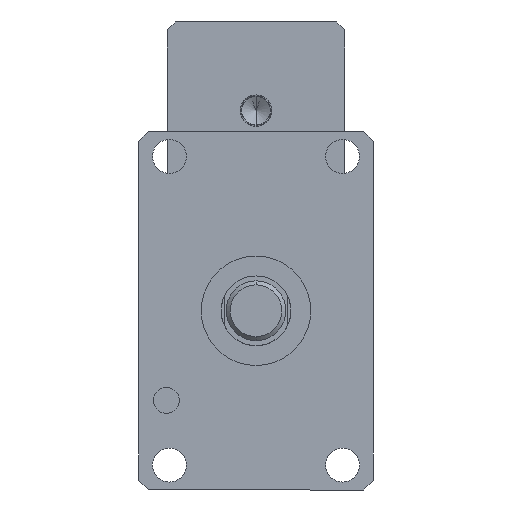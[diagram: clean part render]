
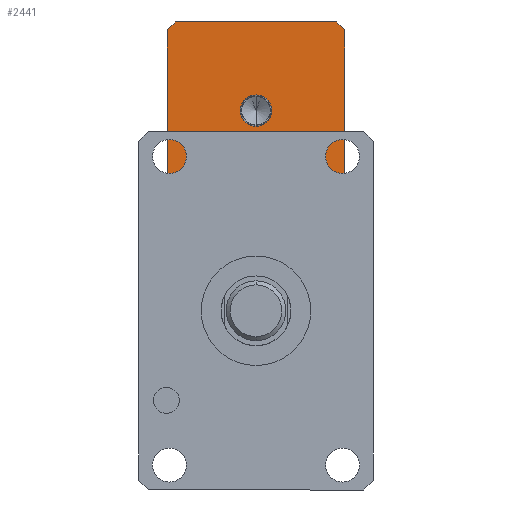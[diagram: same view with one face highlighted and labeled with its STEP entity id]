
A CAD part, front view. The second image highlights one B-rep face of the part: STEP entity #2441.
In plain terms, the highlighted planar face has unit normal (0, -1, 0).
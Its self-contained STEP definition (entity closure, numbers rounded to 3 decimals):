
#132 = LINE ( 'NONE', #4605, #12438 ) ;
#215 = ORIENTED_EDGE ( 'NONE', *, *, #6547, .T. ) ;
#456 = ORIENTED_EDGE ( 'NONE', *, *, #10789, .T. ) ;
#558 = VECTOR ( 'NONE', #3946, 1000. ) ;
#641 = CARTESIAN_POINT ( 'NONE',  ( 40.5, 160., 56. ) ) ;
#800 = CARTESIAN_POINT ( 'NONE',  ( 40.5, 160., 145. ) ) ;
#1570 = ORIENTED_EDGE ( 'NONE', *, *, #8522, .T. ) ;
#1624 = VERTEX_POINT ( 'NONE', #5617 ) ;
#1646 = VECTOR ( 'NONE', #9581, 1000. ) ;
#1689 = CARTESIAN_POINT ( 'NONE',  ( 0., 160., 92.597 ) ) ;
#1920 = CARTESIAN_POINT ( 'NONE',  ( -40.5, 160., 145. ) ) ;
#1950 = LINE ( 'NONE', #800, #12015 ) ;
#2265 = AXIS2_PLACEMENT_3D ( 'NONE', #4031, #10822, #5037 ) ;
#2441 = ADVANCED_FACE ( 'NONE', ( #10503, #5381 ), #10321, .F. ) ;
#2666 = ORIENTED_EDGE ( 'NONE', *, *, #7547, .T. ) ;
#2880 = DIRECTION ( 'NONE',  ( -0.707, 0., -0.707 ) ) ;
#2950 = LINE ( 'NONE', #5451, #10083 ) ;
#3270 = VECTOR ( 'NONE', #7464, 1000. ) ;
#3484 = DIRECTION ( 'NONE',  ( 0., 0., -1. ) ) ;
#3535 = CARTESIAN_POINT ( 'NONE',  ( -44.5, 160., 141. ) ) ;
#3573 = VERTEX_POINT ( 'NONE', #11624 ) ;
#3831 = ORIENTED_EDGE ( 'NONE', *, *, #8307, .F. ) ;
#3946 = DIRECTION ( 'NONE',  ( 0.707, 0., -0.707 ) ) ;
#4011 = VERTEX_POINT ( 'NONE', #7503 ) ;
#4031 = CARTESIAN_POINT ( 'NONE',  ( 0., 160., 100.5 ) ) ;
#4275 = CARTESIAN_POINT ( 'NONE',  ( 0., 160., 108.403 ) ) ;
#4605 = CARTESIAN_POINT ( 'NONE',  ( 44.5, 160., 145. ) ) ;
#4853 = CARTESIAN_POINT ( 'NONE',  ( 0., 160., 100.5 ) ) ;
#4980 = VERTEX_POINT ( 'NONE', #3535 ) ;
#5037 = DIRECTION ( 'NONE',  ( 0., 0., -1. ) ) ;
#5169 = ORIENTED_EDGE ( 'NONE', *, *, #5798, .T. ) ;
#5222 = VECTOR ( 'NONE', #2880, 1000. ) ;
#5381 = FACE_OUTER_BOUND ( 'NONE', #6439, .T. ) ;
#5451 = CARTESIAN_POINT ( 'NONE',  ( -44.5, 160., 145. ) ) ;
#5514 = DIRECTION ( 'NONE',  ( 0., 0., 1. ) ) ;
#5617 = CARTESIAN_POINT ( 'NONE',  ( 40.5, 160., 145. ) ) ;
#5744 = LINE ( 'NONE', #6842, #558 ) ;
#5798 = EDGE_CURVE ( 'NONE', #7649, #4980, #10350, .T. ) ;
#5836 = DIRECTION ( 'NONE',  ( 0., 0., -1. ) ) ;
#5868 = LINE ( 'NONE', #11321, #3270 ) ;
#5887 = VERTEX_POINT ( 'NONE', #8814 ) ;
#5963 = DIRECTION ( 'NONE',  ( 1., 0., 0. ) ) ;
#6200 = AXIS2_PLACEMENT_3D ( 'NONE', #8371, #11303, #5514 ) ;
#6212 = VERTEX_POINT ( 'NONE', #4275 ) ;
#6439 = EDGE_LOOP ( 'NONE', ( #456, #1570, #215, #11282, #12246, #2666, #3831, #5169 ) ) ;
#6547 = EDGE_CURVE ( 'NONE', #4011, #12525, #9417, .T. ) ;
#6549 = VECTOR ( 'NONE', #5963, 1000. ) ;
#6814 = ORIENTED_EDGE ( 'NONE', *, *, #12616, .F. ) ;
#6842 = CARTESIAN_POINT ( 'NONE',  ( -44.5, 160., 60. ) ) ;
#7464 = DIRECTION ( 'NONE',  ( 0., 0., -1. ) ) ;
#7499 = VERTEX_POINT ( 'NONE', #1689 ) ;
#7503 = CARTESIAN_POINT ( 'NONE',  ( -40.5, 160., 56. ) ) ;
#7547 = EDGE_CURVE ( 'NONE', #10509, #1624, #1950, .T. ) ;
#7564 = EDGE_CURVE ( 'NONE', #12525, #3573, #11689, .T. ) ;
#7609 = DIRECTION ( 'NONE',  ( -0.707, 0., 0.707 ) ) ;
#7649 = VERTEX_POINT ( 'NONE', #11688 ) ;
#7652 = CARTESIAN_POINT ( 'NONE',  ( 44.5, 160., 60. ) ) ;
#7703 = AXIS2_PLACEMENT_3D ( 'NONE', #4853, #11628, #5836 ) ;
#7854 = CARTESIAN_POINT ( 'NONE',  ( 44.5, 160., 141. ) ) ;
#7922 = CIRCLE ( 'NONE', #2265, 7.903 ) ;
#8307 = EDGE_CURVE ( 'NONE', #7649, #1624, #132, .T. ) ;
#8371 = CARTESIAN_POINT ( 'NONE',  ( 44.5, 160., 145. ) ) ;
#8522 = EDGE_CURVE ( 'NONE', #5887, #4011, #5744, .T. ) ;
#8814 = CARTESIAN_POINT ( 'NONE',  ( -44.5, 160., 60. ) ) ;
#9376 = ORIENTED_EDGE ( 'NONE', *, *, #12518, .F. ) ;
#9417 = LINE ( 'NONE', #11761, #6549 ) ;
#9581 = DIRECTION ( 'NONE',  ( 0.707, 0., 0.707 ) ) ;
#9624 = EDGE_LOOP ( 'NONE', ( #6814, #9376 ) ) ;
#10083 = VECTOR ( 'NONE', #3484, 1000. ) ;
#10207 = EDGE_CURVE ( 'NONE', #10509, #3573, #5868, .T. ) ;
#10321 = PLANE ( 'NONE',  #6200 ) ;
#10350 = LINE ( 'NONE', #1920, #5222 ) ;
#10503 = FACE_BOUND ( 'NONE', #9624, .T. ) ;
#10509 = VERTEX_POINT ( 'NONE', #7854 ) ;
#10789 = EDGE_CURVE ( 'NONE', #4980, #5887, #2950, .T. ) ;
#10822 = DIRECTION ( 'NONE',  ( 0., -1., 0. ) ) ;
#11282 = ORIENTED_EDGE ( 'NONE', *, *, #7564, .T. ) ;
#11303 = DIRECTION ( 'NONE',  ( 0., 1., 0. ) ) ;
#11321 = CARTESIAN_POINT ( 'NONE',  ( 44.5, 160., 145. ) ) ;
#11407 = CIRCLE ( 'NONE', #7703, 7.903 ) ;
#11624 = CARTESIAN_POINT ( 'NONE',  ( 44.5, 160., 60. ) ) ;
#11628 = DIRECTION ( 'NONE',  ( 0., -1., 0. ) ) ;
#11688 = CARTESIAN_POINT ( 'NONE',  ( -40.5, 160., 145. ) ) ;
#11689 = LINE ( 'NONE', #7652, #1646 ) ;
#11761 = CARTESIAN_POINT ( 'NONE',  ( 44.5, 160., 56. ) ) ;
#12015 = VECTOR ( 'NONE', #7609, 1000. ) ;
#12246 = ORIENTED_EDGE ( 'NONE', *, *, #10207, .F. ) ;
#12377 = DIRECTION ( 'NONE',  ( 1., 0., 0. ) ) ;
#12438 = VECTOR ( 'NONE', #12377, 1000. ) ;
#12518 = EDGE_CURVE ( 'NONE', #6212, #7499, #11407, .T. ) ;
#12525 = VERTEX_POINT ( 'NONE', #641 ) ;
#12616 = EDGE_CURVE ( 'NONE', #7499, #6212, #7922, .T. ) ;
